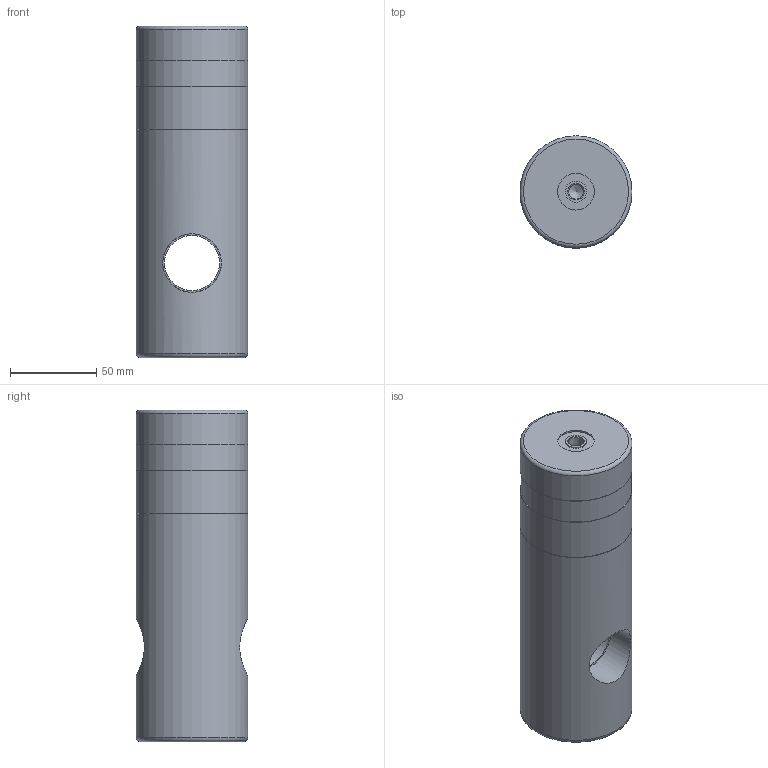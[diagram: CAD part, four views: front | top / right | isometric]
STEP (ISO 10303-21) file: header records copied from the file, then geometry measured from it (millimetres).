
FILE_DESCRIPTION(('STEP AP242'),'1');
FILE_NAME('A.6032 Feststellpatrone.stp','2026-04-23T09:35:02',(' '),(' '),'Spatial InterOp 3D',' ',' ');
FILE_SCHEMA(('AP242_MANAGED_MODEL_BASED_3D_ENGINEERING_MIM_LF {1 0 10303 442 1 1 4}'));
Length unit declared in the file: millimetre
Products named in the file (1): A.6032 Feststellpatrone
Bounding box: 65 x 65 x 192.5 mm (x, y, z)
Volume: 582196.4 mm3; surface area: 50660.8 mm2
Topology: 1 solids, 1 shells, 25 faces, 45 edges, 28 vertices
Faces by surface type: cylinder 11, plane 8, cone 4, torus 2
Full cylindrical faces by diameter (mm): 8.566 x2, 12.3 x1, 21.3 x1, 32 x1, 34 x2, 64.5 x1, 65 x3
Entity records: 1007 total; most frequent: CARTESIAN_POINT 287, DIRECTION 98, EDGE_LOOP 50, ORIENTED_EDGE 50, AXIS2_PLACEMENT_3D 49, FACE_OUTER_BOUND 38, STYLED_ITEM 26, PRESENTATION_STYLE_ASSIGNMENT 26
